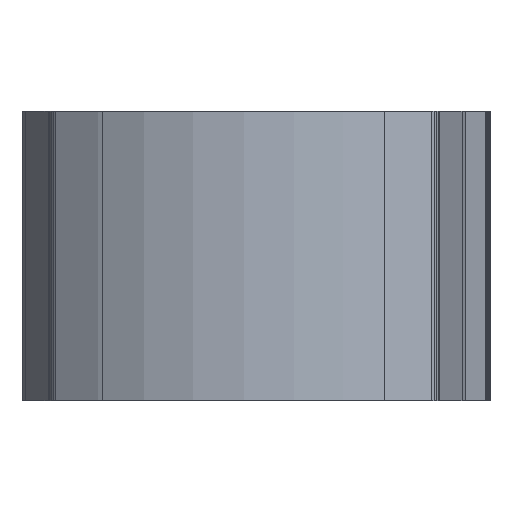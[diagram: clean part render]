
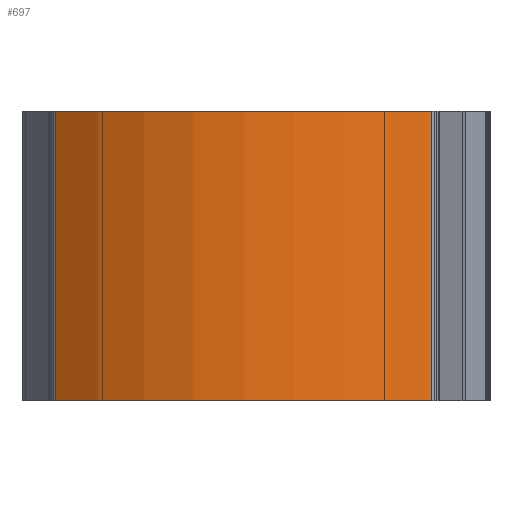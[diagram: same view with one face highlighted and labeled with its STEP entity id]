
A CAD part, left-side view. The second image highlights one B-rep face of the part: STEP entity #697.
In plain terms, the highlighted cylindrical face has radius 52.175 mm (diameter 104.351 mm), a partial arc.
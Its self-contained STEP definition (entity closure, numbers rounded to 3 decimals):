
#200=B_SPLINE_CURVE_WITH_KNOTS('',3,(#10040,#10041,#10042,#10043),.UNSPECIFIED.,
 .F.,.F.,(4,4),(0.,1.),.UNSPECIFIED.);
#697=ADVANCED_FACE('',(#1161),#893,.T.);
#893=CYLINDRICAL_SURFACE('',#6556,52.175);
#1161=FACE_OUTER_BOUND('',#1475,.T.);
#1475=EDGE_LOOP('',(#3736,#3737,#3738,#3739));
#1874=LINE('',#10036,#2268);
#2268=VECTOR('',#8095,1.);
#3736=ORIENTED_EDGE('',*,*,#5544,.T.);
#3737=ORIENTED_EDGE('',*,*,#5545,.F.);
#3738=ORIENTED_EDGE('',*,*,#5546,.F.);
#3739=ORIENTED_EDGE('',*,*,#5547,.T.);
#4672=VERTEX_POINT('',#10034);
#4673=VERTEX_POINT('',#10035);
#4674=VERTEX_POINT('',#10037);
#4675=VERTEX_POINT('',#10039);
#5544=EDGE_CURVE('',#4672,#4673,#5976,.T.);
#5545=EDGE_CURVE('',#4674,#4673,#1874,.T.);
#5546=EDGE_CURVE('',#4675,#4674,#5977,.T.);
#5547=EDGE_CURVE('',#4675,#4672,#200,.T.);
#5976=CIRCLE('',#6554,52.175);
#5977=CIRCLE('',#6555,52.175);
#6554=AXIS2_PLACEMENT_3D('',#10033,#8093,#8094);
#6555=AXIS2_PLACEMENT_3D('',#10038,#8096,#8097);
#6556=AXIS2_PLACEMENT_3D('',#10044,#8098,#8099);
#8093=DIRECTION('',(0.,0.,1.));
#8094=DIRECTION('',(1.,0.,0.));
#8095=DIRECTION('',(0.,0.,-1.));
#8096=DIRECTION('',(0.,0.,1.));
#8097=DIRECTION('',(1.,0.,0.));
#8098=DIRECTION('',(0.,0.,-1.));
#8099=DIRECTION('',(-1.,0.,0.));
#10033=CARTESIAN_POINT('',(6083.354,-974.331,0.));
#10034=CARTESIAN_POINT('',(6042.535,-941.833,0.));
#10035=CARTESIAN_POINT('',(6042.535,-1006.829,0.));
#10036=CARTESIAN_POINT('',(6042.535,-1006.829,50.));
#10037=CARTESIAN_POINT('',(6042.535,-1006.829,50.));
#10038=CARTESIAN_POINT('',(6083.354,-974.331,50.));
#10039=CARTESIAN_POINT('',(6042.535,-941.833,50.));
#10040=CARTESIAN_POINT('',(6042.535,-941.833,50.));
#10041=CARTESIAN_POINT('',(6042.535,-941.833,33.333));
#10042=CARTESIAN_POINT('',(6042.535,-941.833,16.667));
#10043=CARTESIAN_POINT('',(6042.535,-941.833,0.));
#10044=CARTESIAN_POINT('',(6083.354,-974.331,50.));
